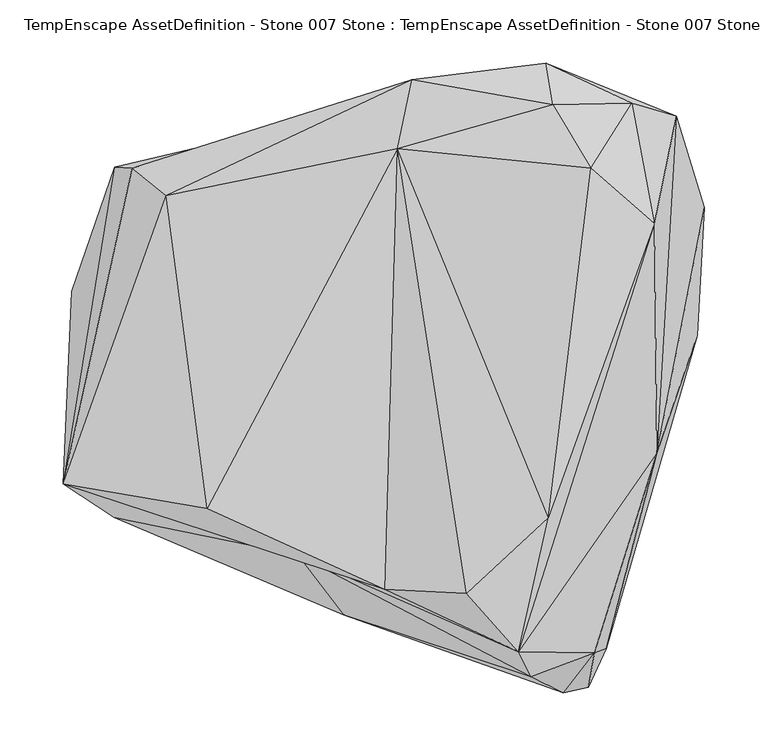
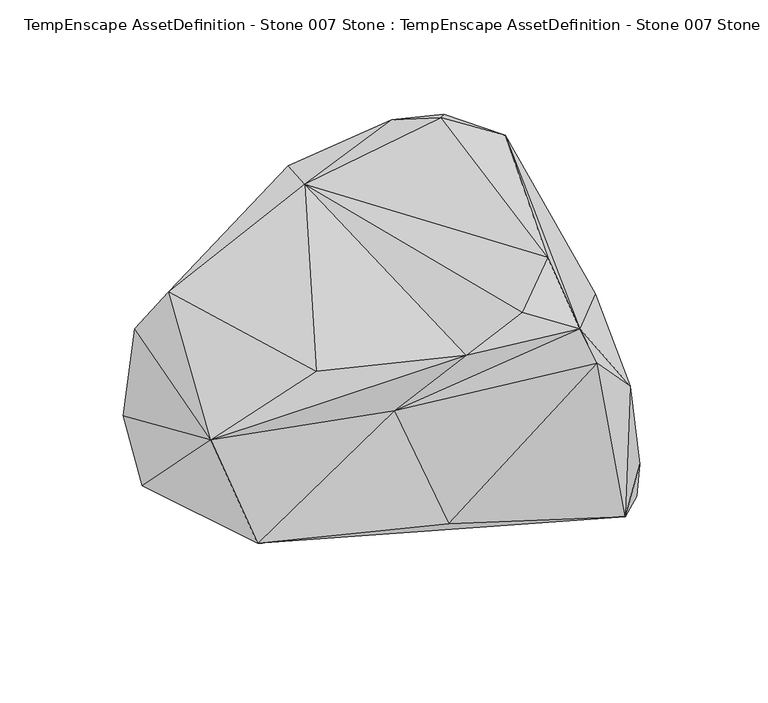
"""IFC4 building model written with IfcOpenShell, lengths in millimetres: geographic element geometry, TempEnscape AssetDefinition - Stone 007 Stone : TempEnscape AssetDefinition - Stone 007 Stone."""

import ifcopenshell
import ifcopenshell.guid

model = None  # the IFC model being written
_history = None  # IfcOwnerHistory: only IFC2X3 demands one
_inside = {}  # id of a spatial element -> (the spatial element, [elements in it])
_under = {}  # id of a project, library or spatial element -> (it, [spatial elements below it])
_declared = {}  # id of a project -> (the project, [libraries it declares])
_typed = {}  # id of a type object -> (the type object, [elements of that type])
_made_of = {}  # id of a material, layer set ... -> (it, [elements and type objects made of it])


def new_model(schema):
    """Start an empty IFC model of exactly this schema.

    Asked for "IFC4X3", IfcOpenShell would pick the latest addendum, in which some entities
    have other attributes; the version numbers below select the first issue.
    IFC2X3 requires an IfcOwnerHistory on every rooted entity: one is made here for all.
    """
    global model, _history
    if schema == "IFC4X3":
        model = ifcopenshell.file(schema_version=(4, 3, 0, 0))
    else:
        model = ifcopenshell.file(schema=schema)
    _inside.clear()
    _under.clear()
    _declared.clear()
    _typed.clear()
    _made_of.clear()
    _history = None
    if model.schema == "IFC2X3":
        org = make("IfcOrganization", Name="unknown")
        user = make(
            "IfcPersonAndOrganization",
            ThePerson=make("IfcPerson", FamilyName="unknown"),
            TheOrganization=org,
        )
        app = make(
            "IfcApplication",
            ApplicationDeveloper=org,
            Version="unknown",
            ApplicationFullName="unknown",
            ApplicationIdentifier="unknown",
        )
        _history = make(
            "IfcOwnerHistory",
            OwningUser=user,
            OwningApplication=app,
            ChangeAction="ADDED",
            CreationDate=0,
        )
    return model


def make(cls, **values):
    """One entity of the class cls with the attributes given. An attribute that is None is left unset."""
    return model.create_entity(
        cls, **{name: value for name, value in values.items() if value is not None}
    )


def rooted(cls, **values):
    """An entity with a GlobalId (a new one), such as an element, a storey or a relation."""
    return make(cls, GlobalId=ifcopenshell.guid.new(), OwnerHistory=_history, **values)


def si_unit(unit_type, name, prefix=None):
    """IfcSIUnit, for example si_unit("LENGTHUNIT", "METRE", prefix="MILLI")."""
    return make("IfcSIUnit", UnitType=unit_type, Prefix=prefix, Name=name)


def assignment(units):
    """IfcUnitAssignment: the units of a project."""
    return None if units is None else make("IfcUnitAssignment", Units=units)


def point(xyz):
    """IfcCartesianPoint."""
    return None if xyz is None else make("IfcCartesianPoint", Coordinates=xyz)


def direction(xyz):
    """IfcDirection."""
    return None if xyz is None else make("IfcDirection", DirectionRatios=xyz)


def frame(location, z_axis=None, x_axis=None):
    """IfcAxis2Placement3D, a coordinate frame: its origin and axes. An axis left out is left unset."""
    return make(
        "IfcAxis2Placement3D",
        Location=point(location),
        Axis=direction(z_axis),
        RefDirection=direction(x_axis),
    )


def origin():
    """The frame at (0, 0, 0) with its axes left unset."""
    return frame((0.0, 0.0, 0.0))


def place(relative_to, where):
    """IfcLocalPlacement: puts the frame where relative to a parent placement (None: the world)."""
    return make(
        "IfcLocalPlacement", PlacementRelTo=relative_to, RelativePlacement=where
    )


def context(
    kind, dimensions, precision=None, world=None, true_north=None, identifier=None
):
    """IfcGeometricRepresentationContext, for example the 3D "Model" context."""
    return make(
        "IfcGeometricRepresentationContext",
        ContextIdentifier=identifier,
        ContextType=kind,
        CoordinateSpaceDimension=dimensions,
        Precision=precision,
        WorldCoordinateSystem=world,
        TrueNorth=true_north,
    )


def project(units=None, contexts=None):
    """IfcProject with its units and contexts."""
    return rooted(
        "IfcProject",
        Name="project",
        RepresentationContexts=contexts,
        UnitsInContext=assignment(units),
    )


def spatial(cls, under=None, at=None, **own):
    """A site, building, storey or space (cls), placed at a placement, below another one or the project."""
    s = rooted(cls, ObjectPlacement=at, **own)
    if under is not None:
        _under.setdefault(under.id(), (under, []))[1].append(s)
    return s


def faces_of(points, faces, orient=None, outer=None):
    """IfcFace entities. A face is a list of loops; a loop is a list of indices into points, from 0.

    orient and outer hold one flag for each loop. By default every Orientation is true, the
    first loop of a face is its IfcFaceOuterBound and the others are IfcFaceBound.
    """
    made = []
    for i, loops in enumerate(faces):
        bounds = []
        for j, loop in enumerate(loops):
            is_outer = j == 0 if outer is None else outer[i][j]
            bounds.append(
                make(
                    "IfcFaceOuterBound" if is_outer else "IfcFaceBound",
                    Bound=make("IfcPolyLoop", Polygon=[points[k] for k in loop]),
                    Orientation=True if orient is None else orient[i][j],
                )
            )
        made.append(make("IfcFace", Bounds=bounds))
    return made


def faceted_brep(points, faces, orient=None, outer=None, voids=None):
    """IfcFacetedBrep: a solid bounded by flat faces; with voids (closed shells), ...WithVoids."""
    shared = [point(p) for p in points]
    hull = make("IfcClosedShell", CfsFaces=faces_of(shared, faces, orient, outer))
    if voids is None:
        return make("IfcFacetedBrep", Outer=hull)
    return make(
        "IfcFacetedBrepWithVoids",
        Outer=hull,
        Voids=[
            make(cls, CfsFaces=faces_of(shared, fs, o, b)) for cls, fs, o, b in voids
        ],
    )


def shape(context_of_items, identifier, shape_type, items):
    """IfcShapeRepresentation: the items that make up one representation, for example the "Body"."""
    return make(
        "IfcShapeRepresentation",
        ContextOfItems=context_of_items,
        RepresentationIdentifier=identifier,
        RepresentationType=shape_type,
        Items=items,
    )


def source(mapping_origin, context_of_items, identifier, shape_type, items):
    """IfcRepresentationMap: a shape defined once, which mapped items show again and again."""
    return make(
        "IfcRepresentationMap",
        MappingOrigin=mapping_origin,
        MappedRepresentation=shape(context_of_items, identifier, shape_type, items),
    )


def transform(
    local_origin,
    x_axis=None,
    y_axis=None,
    z_axis=None,
    scale=None,
    scale2=None,
    scale3=None,
    uniform=True,
):
    """IfcCartesianTransformationOperator3D, or its non-uniform kind. x_axis, y_axis, z_axis: its Axis1, 2, 3."""
    if uniform:
        return make(
            "IfcCartesianTransformationOperator3D",
            Axis1=direction(x_axis),
            Axis2=direction(y_axis),
            LocalOrigin=point(local_origin),
            Scale=scale,
            Axis3=direction(z_axis),
        )
    return make(
        "IfcCartesianTransformationOperator3DnonUniform",
        Axis1=direction(x_axis),
        Axis2=direction(y_axis),
        LocalOrigin=point(local_origin),
        Scale=scale,
        Axis3=direction(z_axis),
        Scale2=scale2,
        Scale3=scale3,
    )


def mapped(mapping_source, mapping_target):
    """IfcMappedItem: shows the shape of a source again, moved by a transform."""
    return make(
        "IfcMappedItem", MappingSource=mapping_source, MappingTarget=mapping_target
    )


def made_of(thing, what):
    """Note that an element or type object is made of a material, layer set ...; save() writes the relation."""
    if what is not None:
        _made_of.setdefault(what.id(), (what, []))[1].append(thing)
    return thing


def element(
    cls,
    number,
    at=None,
    inside=None,
    cuts=None,
    type_object=None,
    material=None,
    context=None,
    identifier="Body",
    shape_type=None,
    held_by="IfcProductDefinitionShape",
    body=None,
    shapes=None,
    **own,
):
    """One element of the class cls, such as IfcWall. Its Tag is "e" and its number.

    at: its placement. inside: the storey or other place that contains it. cuts: it is an
    opening in that element (IfcRelVoidsElement). A single representation is given by context,
    identifier, shape_type and body (its items); several are given by shapes. held_by: the class
    of the entity that holds the representations. save() writes the other relations.
    """
    e = rooted(cls, Tag="e%d" % number, ObjectPlacement=at, **own)
    if body is not None:
        shapes = [shape(context, identifier, shape_type, body)]
    if shapes is not None:
        e.Representation = make(held_by, Representations=shapes)
    if inside is not None:
        _inside.setdefault(inside.id(), (inside, []))[1].append(e)
    if cuts is not None:
        rooted(
            "IfcRelVoidsElement", RelatingBuildingElement=cuts, RelatedOpeningElement=e
        )
    if type_object is not None:
        _typed.setdefault(type_object.id(), (type_object, []))[1].append(e)
    return made_of(e, material)


def aggregate(whole, parts):
    """IfcRelAggregates: a whole, such as a stair, and the parts it consists of."""
    return rooted("IfcRelAggregates", RelatingObject=whole, RelatedObjects=parts)


def save(model, path):
    """Write the relations noted so far, then the file.

    IfcRelAggregates (storeys below a building ...), IfcRelContainedInSpatialStructure (elements
    in a storey), IfcRelDefinesByType, IfcRelAssociatesMaterial and IfcRelDeclares: one each for
    every whole, place, type object, material and project.
    """
    for whole, parts in _under.values():
        aggregate(whole, parts)
    for where, things in _inside.values():
        rooted(
            "IfcRelContainedInSpatialStructure",
            RelatedElements=things,
            RelatingStructure=where,
        )
    for kind, things in _typed.values():
        rooted("IfcRelDefinesByType", RelatedObjects=things, RelatingType=kind)
    for what, things in _made_of.values():
        rooted("IfcRelAssociatesMaterial", RelatedObjects=things, RelatingMaterial=what)
    for by, libraries in _declared.values():
        rooted("IfcRelDeclares", RelatingContext=by, RelatedDefinitions=libraries)
    model.write(path)


def tempenscape_assetdefinition_stone_007_stone_tempenscape_f8b42c55(model_context):
    return source(origin(), model_context, "Body", "Brep", [
        faceted_brep([(136.223206, -105.7606516, 250.0), (220.0224475, 125.9169926, 232.4922251), (169.8458163, 169.8831734, 245.1180215), (202.0706479, 221.117198, 207.0863827), (237.4501095, 210.7001138, 149.2592992), (112.6742434, -212.0719826, 233.3459506), (221.8317326, -55.0140484, 143.6163742), (17.338484, 185.355119, 205.916954), (139.8755041, 220.0399434, 222.7101763), (71.4644616, -165.768145, 240.1799983), (7.4009986, -162.5851857, 206.9773265), (-165.342194, 148.0428716, 158.5388591), (-133.1727933, -98.634996, 197.5971425), (28.8316006, 239.603409, 192.4036678), (134.3753631, 252.50515, 193.1218496), (-192.3422244, 169.9873907, 108.5483816), (70.7926873, 235.8739952, 32.9592657), (-246.5525434, -79.4203568, 139.9273148), (-61.8197893, -135.4074244, 145.5509654), (-205.9735765, 170.6712306, 3.6818221), (-239.9143093, 72.4163964, -11.9552275), (-206.5609992, -106.0113002, 12.6980992), (151.1987204, 184.0121754, -2.2689809), (253.7456819, 37.866556, -28.3700913), (182.2378461, -209.2932894, -2.121973), (148.1205922, -244.1612523, 5.0289916), (-25.2425628, -182.9560099, 20.2973173), (172.6046121, -212.5780826, 140.3707527), (167.9901462, -239.7913864, 61.3998508), (259.2645014, 138.5223049, 3.9830675), (122.4701318, -231.8138018, 198.3068923), (246.4989181, 174.600069, 23.2061444)], [[[0, 1, 2]], [[1, 3, 2]], [[3, 1, 4]], [[0, 5, 1]], [[1, 6, 4]], [[5, 6, 1]], [[0, 2, 7]], [[7, 2, 8]], [[2, 3, 8]], [[0, 7, 9]], [[9, 5, 0]], [[9, 7, 10]], [[10, 5, 9]], [[11, 12, 7]], [[7, 12, 10]], [[7, 8, 13]], [[13, 11, 7]], [[8, 3, 14]], [[8, 14, 13]], [[15, 13, 16]], [[14, 16, 13]], [[13, 15, 11]], [[12, 11, 17]], [[11, 15, 17]], [[12, 17, 10]], [[17, 18, 10]], [[18, 5, 10]], [[15, 19, 17]], [[17, 20, 21]], [[18, 17, 21]], [[17, 19, 20]], [[19, 15, 16]], [[19, 22, 23]], [[20, 19, 23]], [[19, 16, 22]], [[23, 24, 20]], [[21, 20, 24]], [[21, 24, 25]], [[26, 18, 21]], [[26, 21, 25]], [[24, 6, 27]], [[23, 6, 24]], [[24, 27, 28]], [[24, 28, 25]], [[23, 29, 6]], [[22, 29, 23]], [[4, 6, 29]], [[27, 6, 5]], [[27, 30, 25]], [[5, 30, 27]], [[27, 25, 28]], [[25, 30, 26]], [[18, 26, 30]], [[5, 18, 30]], [[4, 31, 14]], [[3, 4, 14]], [[31, 4, 29]], [[31, 29, 22]], [[16, 14, 31]], [[16, 31, 22]]]),
    ])


if __name__ == "__main__":
    model = new_model("IFC4")
    model_context = context("Model", 3, world=origin())
    ifc_project = project(units=[si_unit("LENGTHUNIT", "METRE", prefix="MILLI")], contexts=[model_context])
    site = spatial("IfcSite", under=ifc_project)
    building = spatial("IfcBuilding", under=site)
    placement = place(None, origin())
    tempenscape_assetdefinition_stone_007_stone_tempenscape_shape = tempenscape_assetdefinition_stone_007_stone_tempenscape_f8b42c55(model_context)
    element("IfcGeographicElement", 1, ObjectType="TempEnscape AssetDefinition - Stone 007 Stone : TempEnscape AssetDefinition - Stone 007 Stone", at=placement, inside=building, context=model_context, shape_type="MappedRepresentation", body=[
        mapped(tempenscape_assetdefinition_stone_007_stone_tempenscape_shape, transform((0.0, 0.0, 0.0), x_axis=(1.0, 0.0, 0.0), y_axis=(0.0, 1.0, 0.0), z_axis=(0.0, 0.0, 1.0))),
    ])
    save(model, "model.ifc")
